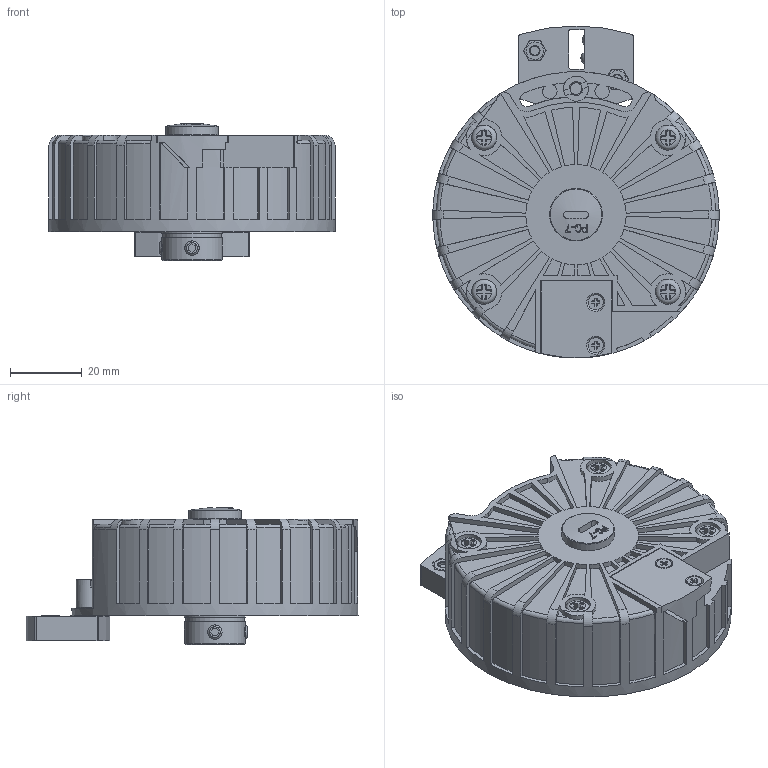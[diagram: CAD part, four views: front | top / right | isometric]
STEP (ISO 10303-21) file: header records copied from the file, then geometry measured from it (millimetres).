
FILE_DESCRIPTION( ( 'Unknown' ), '1' );
FILE_NAME( 'C:/Users/malfermoa/Desktop/step/EH_EF_80K_albero 10.stp', 'Unknown', ( 'Unknown' ), ( 'Unknown' ), 'PSStep 15.0.49', 'Unknown', ' ' );
FILE_SCHEMA( ( 'AUTOMOTIVE_DESIGN { 1 0 10303 214 1 1 1 1 }' ) );
Length unit declared in the file: millimetre
Products named in the file (4): Assem1; 23290022 - 6803 17x26x5; EH_EF_80K_albero 10; 23250023
Assembly tree (3 placements, depth 2):
  Assem1
    23290022 - 6803 17x26x5
    EH_EF_80K_albero 10
    23250023
Bounding box: 80 x 92.77 x 38.35 mm (x, y, z)
Volume: 52422.2 mm3; surface area: 48237.1 mm2
Topology: 3 solids, 21 shells, 1419 faces, 3576 edges, 2253 vertices
Faces by surface type: plane 963, cylinder 290, cone 41, torus 40, extrusion 40, bspline 23, sphere 22
Full cylindrical faces by diameter (mm): 2 x11, 2.1 x2, 2.5 x8, 3 x6, 3.2 x2, 3.3 x3, 4 x1, 4.134 x1, 4.2 x2, 5.6 x2, 6 x2, 7 x7, 8.7 x1, 10 x1, 11.89 x1, 12.003 x2, 14.701 x1, 16 x1, 16.3 x1, 17 x3, 18.5 x1, 19 x1, 19.3 x1, 19.4 x2, 19.5 x2, 23.5 x2, 23.6 x2, 24 x2, 28 x1, 29 x1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
Entity records: 62957 total; most frequent: CARTESIAN_POINT 18790, DIRECTION 6663, ORIENTED_EDGE 6622, EDGE_CURVE 3311, VECTOR 2251, LINE 2211, AXIS2_PLACEMENT_3D 2206, VERTEX_POINT 2172
